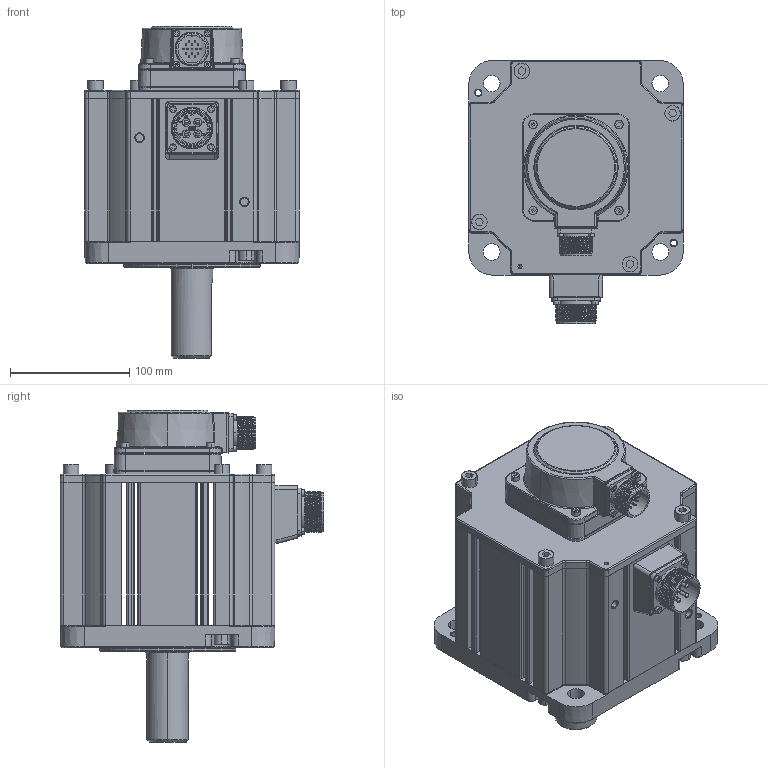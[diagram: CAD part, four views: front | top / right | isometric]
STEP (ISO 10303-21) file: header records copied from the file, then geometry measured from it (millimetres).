
FILE_DESCRIPTION (( 'STEP AP203' ), '1' );
FILE_NAME ('MS6G-180TH15B2-44P4.STEP', '2024-04-26T09:07:47', ( '' ), ( '' ), 'SwSTEP 2.0', 'SolidWorks 2022', '' );
FILE_SCHEMA (( 'CONFIG_CONTROL_DESIGN' ));
Products named in the file (1): MS6G-180TH15B2-44P4
Bounding box: 180 x 220.9 x 278.5 mm (x, y, z)
Surface area: 250499.8 mm2 (no closed solid volume)
Topology: 0 solids, 77 shells, 1276 faces, 3872 edges, 2627 vertices
Faces by surface type: plane 442, cylinder 377, bspline 158, torus 147, cone 109, sphere 43
Entity records: 61698 total; most frequent: CARTESIAN_POINT 28721, DIRECTION 6733, ORIENTED_EDGE 6370, EDGE_CURVE 3826, VERTEX_POINT 2627, AXIS2_PLACEMENT_3D 2474, LINE 1785, VECTOR 1785
